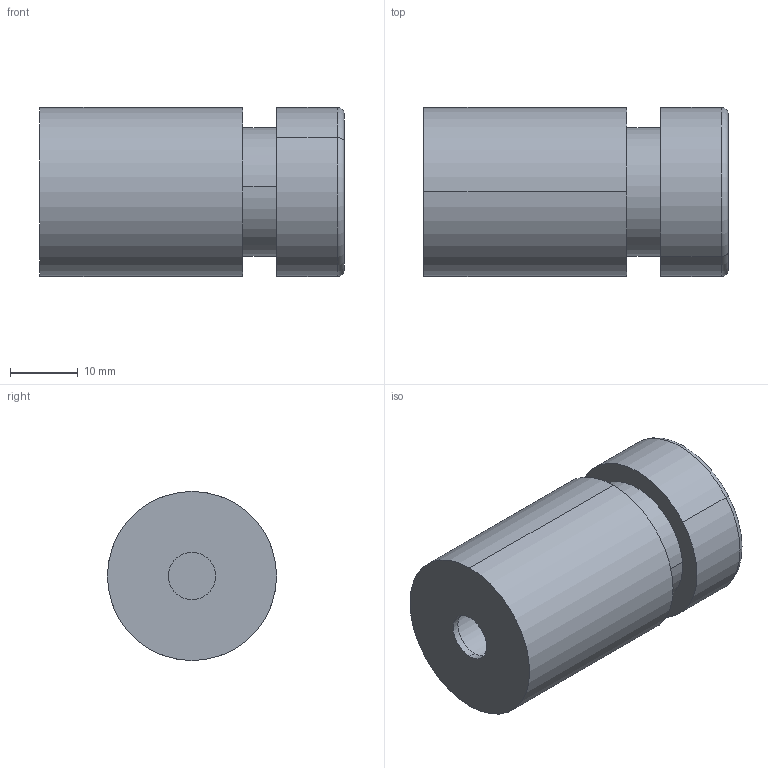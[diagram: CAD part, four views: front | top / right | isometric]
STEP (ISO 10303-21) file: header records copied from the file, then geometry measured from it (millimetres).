
FILE_DESCRIPTION (( 'STEP AP214' ), '1' );
FILE_NAME ('Haczyk na rêczniki YUZO.STEP', '2024-07-08T09:44:36', ( '' ), ( '' ), 'SwSTEP 2.0', 'SolidWorks 2021', '' );
FILE_SCHEMA (( 'AUTOMOTIVE_DESIGN' ));
Length unit declared in the file: millimetre
Products named in the file (4): Tulejka 5cm; Haczyk na rêczniki YUZO; Œruba M10; Dystans monta¿owy krótszy
Assembly tree (3 placements, depth 2):
  Haczyk na rêczniki YUZO
    Dystans monta¿owy krótszy
    Œruba M10
    Tulejka 5cm
Bounding box: 45 x 25 x 25 mm (x, y, z)
Volume: 18877.8 mm3; surface area: 7930.7 mm2
Topology: 3 solids, 3 shells, 58 faces, 142 edges, 92 vertices
Faces by surface type: cylinder 37, plane 12, bspline 7, torus 2
Entity records: 6737 total; most frequent: CARTESIAN_POINT 5372, ORIENTED_EDGE 284, DIRECTION 229, EDGE_CURVE 142, AXIS2_PLACEMENT_3D 94, VERTEX_POINT 92, EDGE_LOOP 64, FACE_OUTER_BOUND 58
